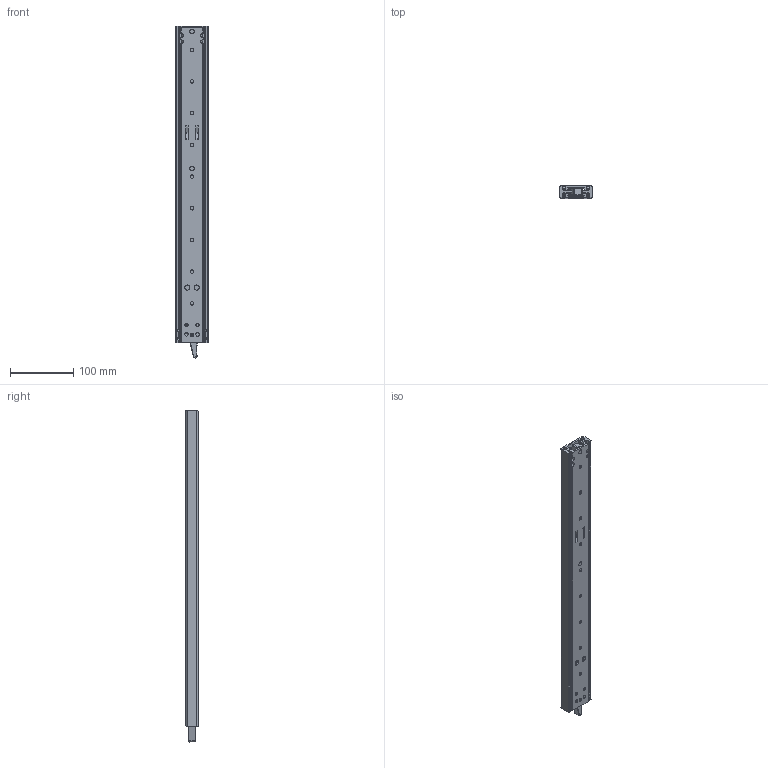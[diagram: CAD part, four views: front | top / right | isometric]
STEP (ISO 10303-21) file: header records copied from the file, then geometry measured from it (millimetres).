
FILE_DESCRIPTION (( 'STEP AP214' ), '1' );
FILE_NAME ('230-500-closed.STEP', '2024-08-20T11:18:56', ( '' ), ( '' ), 'SwSTEP 2.0', 'SolidWorks 2024', '' );
FILE_SCHEMA (( 'AUTOMOTIVE_DESIGN' ));
Length unit declared in the file: millimetre
Products named in the file (12): 61_12278_14_2.STEP_Part257; 61_12279_10_2.STEP_Part247; 61_12275_8.STEP_Part252; 301_000_008_Fitted_22.STEP_Part251; 61_13331_Pin Fitted_22.STEP_Part249; 61_12280_10_Beam Assembled - Stop Raises _2.STEP_Part248; 61_12274_22.STEP_Part253; 400_000_004_22.STEP_Part256; 61_12285_10_closed.STEP_Assem45; 61_12282_22.STEP_Part250; 370_002_070_22.STEP_Part254; 230-500-closed
Assembly tree (27 placements, depth 3):
  230-500-closed
    61_12285_10_closed.STEP_Assem45
      61_12279_10_2.STEP_Part247
      61_12280_10_Beam Assembled - Stop Raises _2.STEP_Part248  x2
      61_13331_Pin Fitted_22.STEP_Part249  x4
      61_12282_22.STEP_Part250
      301_000_008_Fitted_22.STEP_Part251  x2
      61_12275_8.STEP_Part252
      61_12274_22.STEP_Part253
      370_002_070_22.STEP_Part254  x2
      400_000_004_22.STEP_Part256  x8
      61_12278_14_2.STEP_Part257  x4
Bounding box: 50.7 x 19.75 x 523.69 mm (x, y, z)
Volume: 289222.1 mm3; surface area: 200288.9 mm2
Topology: 26 solids, 26 shells, 1384 faces, 3569 edges, 2231 vertices
Faces by surface type: cylinder 588, plane 297, sphere 289, cone 88, torus 77, bspline 45
Entity records: 29598 total; most frequent: CARTESIAN_POINT 8902, DIRECTION 4484, ORIENTED_EDGE 4190, EDGE_CURVE 2095, AXIS2_PLACEMENT_3D 1810, VERTEX_POINT 1298, CIRCLE 1002, EDGE_LOOP 947
